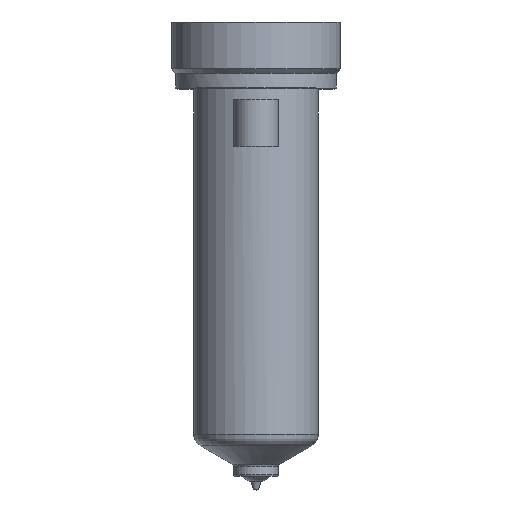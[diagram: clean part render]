
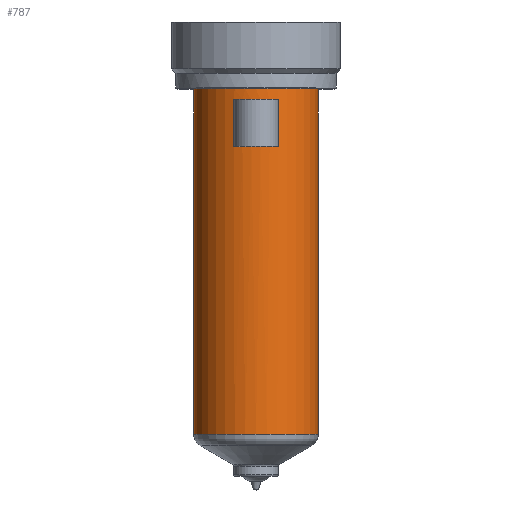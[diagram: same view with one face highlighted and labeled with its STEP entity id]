
A CAD part, top view. The second image highlights one B-rep face of the part: STEP entity #787.
In plain terms, the highlighted cylindrical face has radius 14 mm (diameter 28 mm), a partial arc.
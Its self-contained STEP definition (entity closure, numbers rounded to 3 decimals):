
#195=DIRECTION('',(0.,-1.,0.));
#196=VECTOR('',#195,77.483);
#197=CARTESIAN_POINT('',(14.,0.,0.));
#198=LINE('',#197,#196);
#199=CARTESIAN_POINT('',(0.,-77.483,0.));
#200=DIRECTION('',(0.,1.,0.));
#201=DIRECTION('',(-1.,0.,0.));
#202=AXIS2_PLACEMENT_3D('',#199,#200,#201);
#204=DIRECTION('',(0.,1.,0.));
#205=VECTOR('',#204,77.483);
#206=CARTESIAN_POINT('',(-14.,-77.483,0.));
#207=LINE('',#206,#205);
#208=CARTESIAN_POINT('',(0.,0.,0.));
#209=DIRECTION('',(0.,1.,0.));
#210=DIRECTION('',(-1.,0.,0.));
#211=AXIS2_PLACEMENT_3D('',#208,#209,#210);
#357=DIRECTION('',(0.,-1.,0.));
#358=VECTOR('',#357,10.5);
#359=CARTESIAN_POINT('',(-5.,-2.5,13.077));
#360=LINE('',#359,#358);
#365=CARTESIAN_POINT('',(0.,-13.,0.));
#366=DIRECTION('',(0.,1.,0.));
#367=DIRECTION('',(-0.357,0.,0.934));
#368=AXIS2_PLACEMENT_3D('',#365,#366,#367);
#400=CARTESIAN_POINT('',(0.,-2.5,0.));
#401=DIRECTION('',(0.,-1.,0.));
#402=DIRECTION('',(0.357,0.,0.934));
#403=AXIS2_PLACEMENT_3D('',#400,#401,#402);
#405=DIRECTION('',(0.,-1.,0.));
#406=VECTOR('',#405,10.5);
#407=CARTESIAN_POINT('',(5.,-2.5,13.077));
#408=LINE('',#407,#406);
#466=CARTESIAN_POINT('',(-14.,0.,0.));
#467=CARTESIAN_POINT('',(14.,0.,0.));
#468=VERTEX_POINT('',#466);
#469=VERTEX_POINT('',#467);
#478=CARTESIAN_POINT('',(5.,-2.5,13.077));
#479=VERTEX_POINT('',#478);
#480=CARTESIAN_POINT('',(-5.,-2.5,13.077));
#481=VERTEX_POINT('',#480);
#518=CARTESIAN_POINT('',(14.,-77.483,0.));
#519=VERTEX_POINT('',#518);
#528=CARTESIAN_POINT('',(-14.,-77.483,0.));
#529=VERTEX_POINT('',#528);
#546=CARTESIAN_POINT('',(-5.,-13.,13.077));
#547=CARTESIAN_POINT('',(5.,-13.,13.077));
#548=VERTEX_POINT('',#546);
#549=VERTEX_POINT('',#547);
#765=CARTESIAN_POINT('',(0.,16.4,0.));
#766=DIRECTION('',(0.,-1.,0.));
#767=DIRECTION('',(-1.,0.,0.));
#768=AXIS2_PLACEMENT_3D('',#765,#766,#767);
#769=CYLINDRICAL_SURFACE('',#768,14.);
#770=ORIENTED_EDGE('',*,*,#759,.T.);
#772=ORIENTED_EDGE('',*,*,#771,.F.);
#773=ORIENTED_EDGE('',*,*,#755,.T.);
#774=ORIENTED_EDGE('',*,*,#745,.T.);
#775=EDGE_LOOP('',(#770,#772,#773,#774));
#776=FACE_OUTER_BOUND('',#775,.F.);
#778=ORIENTED_EDGE('',*,*,#777,.T.);
#780=ORIENTED_EDGE('',*,*,#779,.T.);
#782=ORIENTED_EDGE('',*,*,#781,.F.);
#784=ORIENTED_EDGE('',*,*,#783,.T.);
#785=EDGE_LOOP('',(#778,#780,#782,#784));
#786=FACE_BOUND('',#785,.F.);
#787=ADVANCED_FACE('',(#776,#786),#769,.T.);
#203=CIRCLE('',#202,14.);
#212=CIRCLE('',#211,14.);
#369=CIRCLE('',#368,14.);
#404=CIRCLE('',#403,14.);
#745=EDGE_CURVE('',#468,#469,#212,.T.);
#755=EDGE_CURVE('',#529,#468,#207,.T.);
#759=EDGE_CURVE('',#469,#519,#198,.T.);
#771=EDGE_CURVE('',#529,#519,#203,.T.);
#777=EDGE_CURVE('',#481,#548,#360,.T.);
#779=EDGE_CURVE('',#548,#549,#369,.T.);
#781=EDGE_CURVE('',#479,#549,#408,.T.);
#783=EDGE_CURVE('',#479,#481,#404,.T.);
